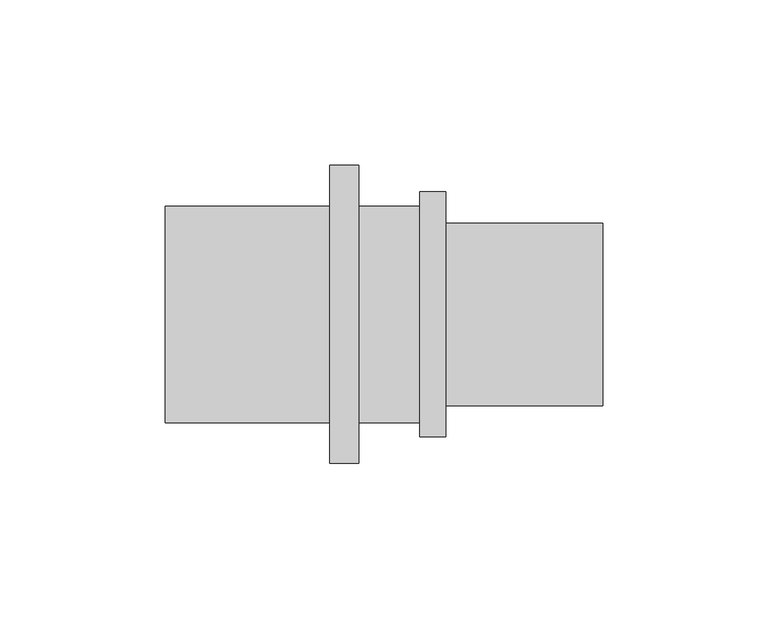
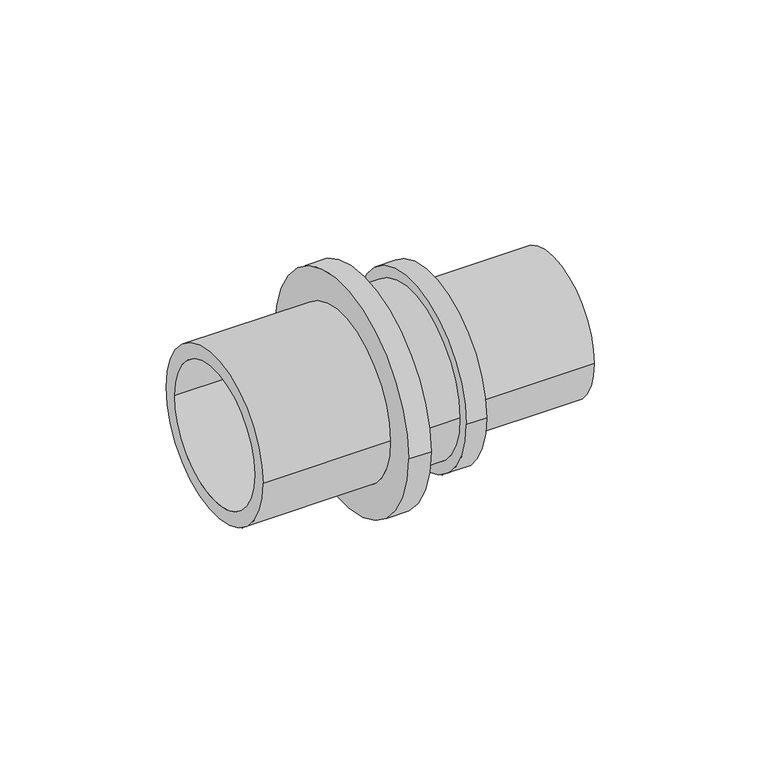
"""IFC4 building model written with IfcOpenShell, lengths in millimetres: pipe fitting geometry, Coupling transistion : C RE SDR11 RX."""

from ifc_helpers import new_model, si_unit, frame, origin, place, context, project, spatial, polyline, circle_curve, source, transform, mapped, element, save
from ifc_brep_helpers import plane_surface, cylinder_surface, revolved_surface, advanced_brep


def pipe_fitting_2c702f34(model_context):
    return source(origin(), model_context, "Body", "AdvancedBrep", [
        advanced_brep(
        [(-17.1, 32.7, 0.0), (-17.1, -32.7, 0.0), (-66.8, -32.7, 0.0), (-66.8, 32.7, 0.0), (-8.4, 45.0, 0.0), (-8.4, -45.0, 0.0), (-17.1, -45.0, 0.0), (-17.1, 45.0, 0.0), (10.0, 32.7, 0.0), (10.0, -32.7, 0.0), (-8.4, -32.7, 0.0), (-8.4, 32.7, 0.0), (17.9, 37.0, 0.0), (17.9, -37.0, 0.0), (10.0, -37.0, 0.0), (10.0, 37.0, 0.0), (65.3, 27.55, 0.0), (65.3, -27.55, 0.0), (17.9, -27.55, 0.0), (17.9, 27.55, 0.0), (0.0, 22.5, 0.0), (0.0, -22.5, 0.0), (65.3, -22.5, 0.0), (65.3, 22.5, 0.0), (-66.8, 27.0, 0.0), (-66.8, -27.0, 0.0), (0.0, -27.0, 0.0), (0.0, 27.0, 0.0)],
        [
            (0, 1, circle_curve(frame((-17.1, 0.0, 0.0), z_axis=(-1.0, 0.0, 0.0), x_axis=(0.0, -1.0, 0.0)), 32.7)),
            (1, 2),
            (2, 3, circle_curve(frame((-66.8, 0.0, 0.0), z_axis=(1.0, 0.0, 0.0), x_axis=(0.0, -1.0, 0.0)), 32.7)),
            (3, 0),
            (4, 5, circle_curve(frame((-8.4, 0.0, 0.0), z_axis=(-1.0, 0.0, 0.0), x_axis=(0.0, -1.0, 0.0)), 45.0)),
            (5, 6),
            (6, 7, circle_curve(frame((-17.1, 0.0, 0.0), z_axis=(1.0, 0.0, 0.0), x_axis=(0.0, -1.0, 0.0)), 45.0)),
            (7, 4),
            (8, 9, circle_curve(frame((10.0, 0.0, 0.0), z_axis=(-1.0, 0.0, 0.0), x_axis=(0.0, -1.0, 0.0)), 32.7)),
            (9, 10),
            (10, 11, circle_curve(frame((-8.4, 0.0, 0.0), z_axis=(1.0, 0.0, 0.0), x_axis=(0.0, -1.0, 0.0)), 32.7)),
            (11, 8),
            (12, 13, circle_curve(frame((17.9, 0.0, 0.0), z_axis=(-1.0, 0.0, 0.0), x_axis=(0.0, -1.0, 0.0)), 37.0)),
            (13, 14),
            (14, 15, circle_curve(frame((10.0, 0.0, 0.0), z_axis=(1.0, 0.0, 0.0), x_axis=(0.0, -1.0, 0.0)), 37.0)),
            (15, 12),
            (16, 17, circle_curve(frame((65.3, 0.0, 0.0), z_axis=(-1.0, 0.0, 0.0), x_axis=(0.0, -1.0, 0.0)), 27.55)),
            (17, 18),
            (18, 19, circle_curve(frame((17.9, 0.0, 0.0), z_axis=(1.0, 0.0, 0.0), x_axis=(0.0, -1.0, 0.0)), 27.55)),
            (19, 16),
            (20, 21, circle_curve(frame((0.0, 0.0, 0.0), z_axis=(-1.0, 0.0, 0.0), x_axis=(0.0, -1.0, 0.0)), 22.5)),
            (21, 22),
            (22, 23, circle_curve(frame((65.3, 0.0, 0.0), z_axis=(1.0, 0.0, 0.0), x_axis=(0.0, -1.0, 0.0)), 22.5)),
            (23, 20),
            (24, 25, circle_curve(frame((-66.8, 0.0, 0.0), z_axis=(-1.0, 0.0, 0.0), x_axis=(0.0, -1.0, 0.0)), 27.0)),
            (25, 26),
            (26, 27, circle_curve(frame((0.0, 0.0, 0.0), z_axis=(1.0, 0.0, 0.0), x_axis=(0.0, -1.0, 0.0)), 27.0)),
            (27, 24),
            (2, 3, circle_curve(frame((-66.8, 0.0, 0.0), z_axis=(-1.0, 0.0, 0.0), x_axis=(0.0, 1.0, 0.0)), 32.7)),
            (24, 25, circle_curve(frame((-66.8, 0.0, 0.0), z_axis=(1.0, 0.0, 0.0), x_axis=(0.0, 1.0, 0.0)), 27.0)),
            (1, 0, circle_curve(frame((-17.1, 0.0, 0.0), z_axis=(-1.0, 0.0, 0.0), x_axis=(0.0, 1.0, 0.0)), 32.7)),
            (6, 7, circle_curve(frame((-17.1, 0.0, 0.0), z_axis=(-1.0, 0.0, 0.0), x_axis=(0.0, 1.0, 0.0)), 45.0)),
            (5, 4, circle_curve(frame((-8.4, 0.0, 0.0), z_axis=(-1.0, 0.0, 0.0), x_axis=(0.0, 1.0, 0.0)), 45.0)),
            (10, 11, circle_curve(frame((-8.4, 0.0, 0.0), z_axis=(-1.0, 0.0, 0.0), x_axis=(0.0, 1.0, 0.0)), 32.7)),
            (9, 8, circle_curve(frame((10.0, 0.0, 0.0), z_axis=(-1.0, 0.0, 0.0), x_axis=(0.0, 1.0, 0.0)), 32.7)),
            (14, 15, circle_curve(frame((10.0, 0.0, 0.0), z_axis=(-1.0, 0.0, 0.0), x_axis=(0.0, 1.0, 0.0)), 37.0)),
            (13, 12, circle_curve(frame((17.9, 0.0, 0.0), z_axis=(-1.0, 0.0, 0.0), x_axis=(0.0, 1.0, 0.0)), 37.0)),
            (18, 19, circle_curve(frame((17.9, 0.0, 0.0), z_axis=(-1.0, 0.0, 0.0), x_axis=(0.0, 1.0, 0.0)), 27.55)),
            (17, 16, circle_curve(frame((65.3, 0.0, 0.0), z_axis=(-1.0, 0.0, 0.0), x_axis=(0.0, 1.0, 0.0)), 27.55)),
            (22, 23, circle_curve(frame((65.3, 0.0, 0.0), z_axis=(-1.0, 0.0, 0.0), x_axis=(0.0, 1.0, 0.0)), 22.5)),
            (21, 20, circle_curve(frame((0.0, 0.0, 0.0), z_axis=(-1.0, 0.0, 0.0), x_axis=(0.0, 1.0, 0.0)), 22.5)),
            (26, 27, circle_curve(frame((0.0, 0.0, 0.0), z_axis=(-1.0, 0.0, 0.0), x_axis=(0.0, 1.0, 0.0)), 27.0)),
        ],
        [
            cylinder_surface(frame((0.0, 0.0, 0.0), z_axis=(1.0, 0.0, 0.0), x_axis=(0.0, -1.0, 0.0)), 32.7),
            cylinder_surface(frame((0.0, 0.0, 0.0), z_axis=(1.0, 0.0, 0.0), x_axis=(0.0, -1.0, 0.0)), 45.0),
            cylinder_surface(frame((0.0, 0.0, 0.0), z_axis=(1.0, 0.0, 0.0), x_axis=(0.0, -1.0, 0.0)), 37.0),
            cylinder_surface(frame((0.0, 0.0, 0.0), z_axis=(1.0, 0.0, 0.0), x_axis=(0.0, -1.0, 0.0)), 27.55),
            revolved_surface(polyline([(65.3, -22.5, 0.0), (0.0, -22.5, 0.0)]), (0.0, 0.0, 0.0), (1.0, 0.0, 0.0)),
            revolved_surface(polyline([(0.0, -27.0, 0.0), (-66.8, -27.0, 0.0)]), (0.0, 0.0, 0.0), (1.0, 0.0, 0.0)),
            plane_surface(frame((-66.8, 0.0, 0.0), z_axis=(-1.0, 0.0, 0.0), x_axis=(0.0, 1.0, 0.0))),
            cylinder_surface(frame((0.0, 0.0, 0.0), z_axis=(1.0, 0.0, 0.0), x_axis=(0.0, 1.0, 0.0)), 32.7),
            plane_surface(frame((-17.1, 0.0, 0.0), z_axis=(-1.0, 0.0, 0.0), x_axis=(0.0, 1.0, 0.0))),
            cylinder_surface(frame((0.0, 0.0, 0.0), z_axis=(1.0, 0.0, 0.0), x_axis=(0.0, 1.0, 0.0)), 45.0),
            plane_surface(frame((-8.4, 0.0, 0.0), z_axis=(1.0, 0.0, 0.0), x_axis=(0.0, 1.0, 0.0))),
            plane_surface(frame((10.0, 0.0, 0.0), z_axis=(-1.0, 0.0, 0.0), x_axis=(0.0, 1.0, 0.0))),
            cylinder_surface(frame((0.0, 0.0, 0.0), z_axis=(1.0, 0.0, 0.0), x_axis=(0.0, 1.0, 0.0)), 37.0),
            plane_surface(frame((17.9, 0.0, 0.0), z_axis=(1.0, 0.0, 0.0), x_axis=(0.0, 1.0, 0.0))),
            cylinder_surface(frame((0.0, 0.0, 0.0), z_axis=(1.0, 0.0, 0.0), x_axis=(0.0, 1.0, 0.0)), 27.55),
            plane_surface(frame((65.3, 0.0, 0.0), z_axis=(1.0, 0.0, 0.0), x_axis=(0.0, 1.0, 0.0))),
            revolved_surface(polyline([(65.3, 22.5, 0.0), (0.0, 22.5, 0.0)]), (0.0, 0.0, 0.0), (1.0, 0.0, 0.0)),
            plane_surface(frame((0.0, 0.0, 0.0), z_axis=(-1.0, 0.0, 0.0), x_axis=(0.0, 1.0, 0.0))),
            revolved_surface(polyline([(0.0, 27.0, 0.0), (-66.8, 27.0, 0.0)]), (0.0, 0.0, 0.0), (1.0, 0.0, 0.0)),
        ],
        [
            (0, [[1, 2, 3, 4]]),
            (1, [[5, 6, 7, 8]]),
            (0, [[9, 10, 11, 12]]),
            (2, [[13, 14, 15, 16]]),
            (3, [[17, 18, 19, 20]]),
            (4, [[21, 22, 23, 24]]),
            (5, [[25, 26, 27, 28]]),
            (6, [[29, -3], [30, -25]]),
            (7, [[31, -4, -29, -2]]),
            (8, [[32, -7], [-31, -1]]),
            (9, [[33, -8, -32, -6]]),
            (10, [[-33, -5], [34, -11]]),
            (7, [[35, -12, -34, -10]]),
            (11, [[36, -15], [-35, -9]]),
            (12, [[37, -16, -36, -14]]),
            (13, [[-37, -13], [38, -19]]),
            (14, [[39, -20, -38, -18]]),
            (15, [[-39, -17], [40, -23]]),
            (16, [[41, -24, -40, -22]]),
            (17, [[42, -27], [-41, -21]]),
            (18, [[-30, -28, -42, -26]]),
        ],
    ),
    ])


if __name__ == "__main__":
    model = new_model("IFC4")
    model_context = context("Model", 3, world=origin())
    ifc_project = project(units=[si_unit("LENGTHUNIT", "METRE", prefix="MILLI")], contexts=[model_context])
    site = spatial("IfcSite", under=ifc_project)
    building = spatial("IfcBuilding", under=site)
    placement = place(None, origin())
    pipe_fitting_shape = pipe_fitting_2c702f34(model_context)
    element("IfcPipeFitting", 1, ObjectType="Coupling transistion : C RE SDR11 RX", at=placement, inside=building, context=model_context, shape_type="MappedRepresentation", body=[
        mapped(pipe_fitting_shape, transform((0.0, 0.0, 0.0), x_axis=(1.0, 0.0, 0.0), y_axis=(0.0, 1.0, 0.0), z_axis=(0.0, 0.0, 1.0))),
    ])
    save(model, "model.ifc")
